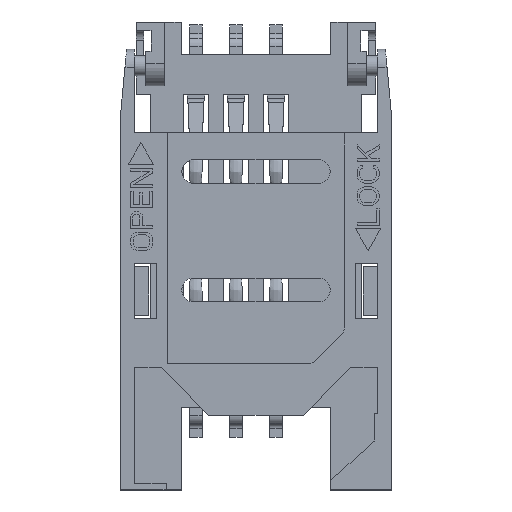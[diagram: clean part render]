
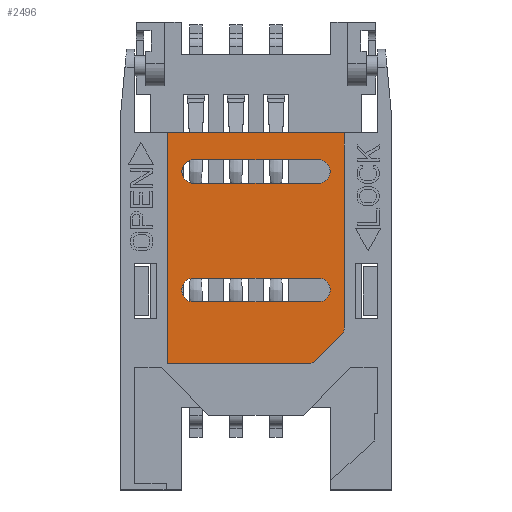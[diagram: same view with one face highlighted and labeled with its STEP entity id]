
A CAD part, top view. The second image highlights one B-rep face of the part: STEP entity #2496.
In plain terms, the highlighted planar face has unit normal (0, 0, 1).
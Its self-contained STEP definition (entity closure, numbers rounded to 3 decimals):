
#2496=ADVANCED_FACE('',(#7013,#7015,#7017),#7019,.T.);
#7013=FACE_BOUND('',#7014,.T.);
#7014=EDGE_LOOP('',(#13540,#13541,#13542,#13543,#13544,#13545,#13546));
#7015=FACE_BOUND('',#7016,.T.);
#7016=EDGE_LOOP('',(#13547,#13548,#13549,#13550));
#7017=FACE_BOUND('',#7018,.T.);
#7018=EDGE_LOOP('',(#13551,#13552,#13553,#13554));
#7019=PLANE('',#7020);
#7020=AXIS2_PLACEMENT_3D('',#7021,#7022,#7023);
#7021=CARTESIAN_POINT('',(0.,0.495,1.35));
#7022=DIRECTION('',(0.,0.,1.));
#7023=DIRECTION('',(1.,0.,0.));
#13540=ORIENTED_EDGE('',*,*,#15861,.T.);
#13541=ORIENTED_EDGE('',*,*,#15859,.T.);
#13542=ORIENTED_EDGE('',*,*,#15857,.T.);
#13543=ORIENTED_EDGE('',*,*,#15855,.F.);
#13544=ORIENTED_EDGE('',*,*,#15853,.T.);
#13545=ORIENTED_EDGE('',*,*,#15865,.F.);
#13546=ORIENTED_EDGE('',*,*,#15864,.T.);
#13547=ORIENTED_EDGE('',*,*,#15866,.T.);
#13548=ORIENTED_EDGE('',*,*,#15867,.T.);
#13549=ORIENTED_EDGE('',*,*,#15868,.T.);
#13550=ORIENTED_EDGE('',*,*,#15869,.T.);
#13551=ORIENTED_EDGE('',*,*,#15870,.T.);
#13552=ORIENTED_EDGE('',*,*,#15871,.T.);
#13553=ORIENTED_EDGE('',*,*,#15872,.T.);
#13554=ORIENTED_EDGE('',*,*,#15873,.T.);
#15853=EDGE_CURVE('',#18045,#18043,#18046,.T.);
#15855=EDGE_CURVE('',#18045,#18048,#18049,.T.);
#15857=EDGE_CURVE('',#18051,#18048,#18052,.T.);
#15859=EDGE_CURVE('',#18054,#18051,#18055,.T.);
#15861=EDGE_CURVE('',#18057,#18054,#18058,.T.);
#15864=EDGE_CURVE('',#18060,#18057,#18062,.T.);
#15865=EDGE_CURVE('',#18060,#18043,#18063,.T.);
#15866=EDGE_CURVE('',#18064,#18065,#18066,.T.);
#15867=EDGE_CURVE('',#18065,#18067,#18068,.T.);
#15868=EDGE_CURVE('',#18067,#18069,#18070,.T.);
#15869=EDGE_CURVE('',#18069,#18064,#18071,.T.);
#15870=EDGE_CURVE('',#18072,#18073,#18074,.T.);
#15871=EDGE_CURVE('',#18073,#18075,#18076,.T.);
#15872=EDGE_CURVE('',#18075,#18077,#18078,.T.);
#15873=EDGE_CURVE('',#18077,#18072,#18079,.T.);
#18043=VERTEX_POINT('',#22540);
#18045=VERTEX_POINT('',#22544);
#18046=LINE('',#22545,#22546);
#18048=VERTEX_POINT('',#22551);
#18049=LINE('',#22552,#22553);
#18051=VERTEX_POINT('',#22558);
#18052=CIRCLE('',#22559,0.6);
#18054=VERTEX_POINT('',#22566);
#18055=LINE('',#22567,#22568);
#18057=VERTEX_POINT('',#22573);
#18058=B_SPLINE_CURVE_WITH_KNOTS('',3,
(#22574,#22575,#22576,#22577,#22578,#22579),
.UNSPECIFIED.,.F.,.F.,
(4,1,1,4),
(0.,0.333,0.667,1.),
.UNSPECIFIED.);
#18060=VERTEX_POINT('',#22583);
#18062=LINE('',#22587,#22588);
#18063=LINE('',#22590,#22591);
#18064=VERTEX_POINT('',#22593);
#18065=VERTEX_POINT('',#22594);
#18066=CIRCLE('',#22595,0.75);
#18067=VERTEX_POINT('',#22599);
#18068=LINE('',#22600,#22601);
#18069=VERTEX_POINT('',#22603);
#18070=CIRCLE('',#22604,0.75);
#18071=LINE('',#22608,#22609);
#18072=VERTEX_POINT('',#22611);
#18073=VERTEX_POINT('',#22612);
#18074=LINE('',#22613,#22614);
#18075=VERTEX_POINT('',#22616);
#18076=CIRCLE('',#22617,0.75);
#18077=VERTEX_POINT('',#22621);
#18078=LINE('',#22622,#22623);
#18079=CIRCLE('',#22625,0.75);
#22540=CARTESIAN_POINT('',(-5.6,7.795,1.35));
#22544=CARTESIAN_POINT('',(5.6,7.795,1.35));
#22545=CARTESIAN_POINT('',(5.6,7.795,1.35));
#22546=VECTOR('',#22547,1.);
#22547=DIRECTION('',(-1.,0.,0.));
#22551=CARTESIAN_POINT('',(5.6,-4.556,1.35));
#22552=CARTESIAN_POINT('',(5.6,7.795,1.35));
#22553=VECTOR('',#22554,1.);
#22554=DIRECTION('',(0.,-1.,0.));
#22558=CARTESIAN_POINT('',(5.424,-4.981,1.35));
#22559=AXIS2_PLACEMENT_3D('',#22560,#22561,#22562);
#22560=CARTESIAN_POINT('',(5.,-4.556,1.35));
#22561=DIRECTION('',(0.,0.,1.));
#22562=DIRECTION('',(0.707,-0.707,0.));
#22566=CARTESIAN_POINT('',(3.776,-6.629,1.35));
#22567=CARTESIAN_POINT('',(3.776,-6.629,1.35));
#22568=VECTOR('',#22569,1.);
#22569=DIRECTION('',(0.707,0.707,0.));
#22573=CARTESIAN_POINT('',(3.374,-6.805,1.35));
#22574=CARTESIAN_POINT('',(3.374,-6.805,1.35));
#22575=CARTESIAN_POINT('',(3.426,-6.803,1.35));
#22576=CARTESIAN_POINT('',(3.521,-6.787,1.35));
#22577=CARTESIAN_POINT('',(3.664,-6.725,1.35));
#22578=CARTESIAN_POINT('',(3.741,-6.664,1.35));
#22579=CARTESIAN_POINT('',(3.776,-6.629,1.35));
#22583=CARTESIAN_POINT('',(-5.6,-6.805,1.35));
#22587=CARTESIAN_POINT('',(-5.6,-6.805,1.35));
#22588=VECTOR('',#22589,1.);
#22589=DIRECTION('',(1.,0.,0.));
#22590=CARTESIAN_POINT('',(-5.6,-6.805,1.35));
#22591=VECTOR('',#22592,1.);
#22592=DIRECTION('',(0.,1.,0.));
#22593=CARTESIAN_POINT('',(-3.95,-2.905,1.35));
#22594=CARTESIAN_POINT('',(-3.95,-1.405,1.35));
#22595=AXIS2_PLACEMENT_3D('',#22596,#22597,#22598);
#22596=CARTESIAN_POINT('',(-3.95,-2.155,1.35));
#22597=DIRECTION('',(0.,0.,-1.));
#22598=DIRECTION('',(0.,-1.,0.));
#22599=CARTESIAN_POINT('',(3.95,-1.405,1.35));
#22600=CARTESIAN_POINT('',(-3.95,-1.405,1.35));
#22601=VECTOR('',#22602,1.);
#22602=DIRECTION('',(1.,0.,0.));
#22603=CARTESIAN_POINT('',(3.95,-2.905,1.35));
#22604=AXIS2_PLACEMENT_3D('',#22605,#22606,#22607);
#22605=CARTESIAN_POINT('',(3.95,-2.155,1.35));
#22606=DIRECTION('',(0.,0.,-1.));
#22607=DIRECTION('',(0.,1.,0.));
#22608=CARTESIAN_POINT('',(3.95,-2.905,1.35));
#22609=VECTOR('',#22610,1.);
#22610=DIRECTION('',(-1.,0.,0.));
#22611=CARTESIAN_POINT('',(-3.95,6.095,1.35));
#22612=CARTESIAN_POINT('',(3.95,6.095,1.35));
#22613=CARTESIAN_POINT('',(-3.95,6.095,1.35));
#22614=VECTOR('',#22615,1.);
#22615=DIRECTION('',(1.,0.,0.));
#22616=CARTESIAN_POINT('',(3.95,4.595,1.35));
#22617=AXIS2_PLACEMENT_3D('',#22618,#22619,#22620);
#22618=CARTESIAN_POINT('',(3.95,5.345,1.35));
#22619=DIRECTION('',(0.,0.,-1.));
#22620=DIRECTION('',(0.,1.,0.));
#22621=CARTESIAN_POINT('',(-3.95,4.595,1.35));
#22622=CARTESIAN_POINT('',(3.95,4.595,1.35));
#22623=VECTOR('',#22624,1.);
#22624=DIRECTION('',(-1.,0.,0.));
#22625=AXIS2_PLACEMENT_3D('',#22626,#22627,#22628);
#22626=CARTESIAN_POINT('',(-3.95,5.345,1.35));
#22627=DIRECTION('',(0.,0.,-1.));
#22628=DIRECTION('',(0.,-1.,0.));
